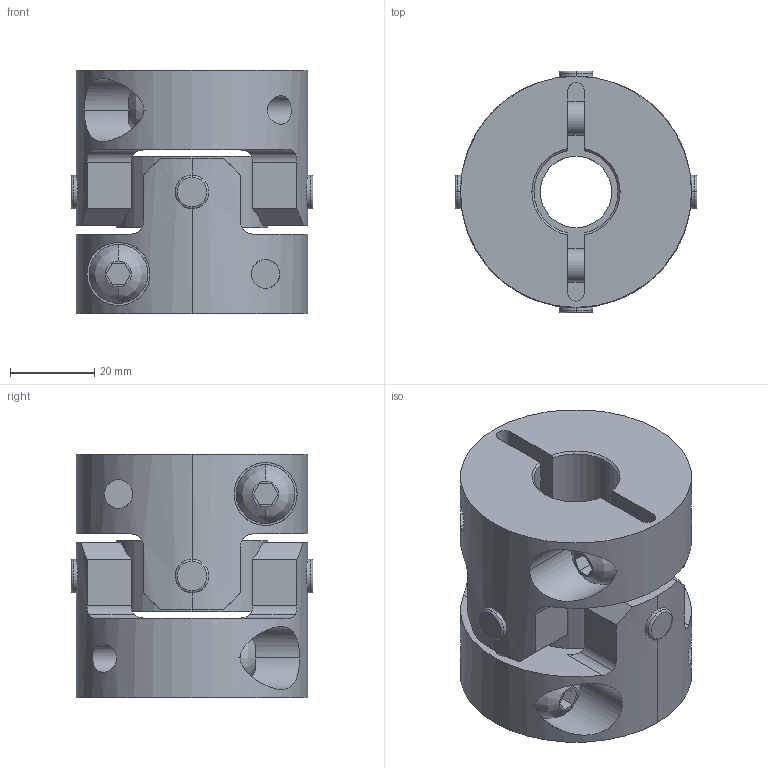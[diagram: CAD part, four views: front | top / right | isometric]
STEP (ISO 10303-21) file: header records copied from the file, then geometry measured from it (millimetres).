
FILE_DESCRIPTION((''),'2;1');
FILE_NAME('UA-55C-19×20.stp','2013-05-22T14:18:50',(''),(''),'AutoCAD STEP 2000i','AutoCAD 2000i',', , ');
FILE_SCHEMA(('CONFIG_CONTROL_DESIGN'));
Length unit declared in the file: millimetre
Products named in the file (8): UA-55C-18×18; 忣兜1; UA-5502-D18-1; BTN-M8; UA-5502-D18; UA-5502-D10-1; UA-5502-D10; UA55-SEN
Assembly tree (10 placements, depth 3):
  UA-55C-18×18
    忣兜1
    UA-5502-D18-1
      BTN-M8
    UA-5502-D18
      BTN-M8
    UA-5502-D10-1
      BTN-M8
    UA-5502-D10
      BTN-M8
    UA55-SEN
Bounding box: 57.55 x 57.55 x 58 mm (x, y, z)
Volume: 97440.8 mm3; surface area: 30540.5 mm2
Topology: 1 solids, 1 shells, 206 faces, 554 edges, 364 vertices
Faces by surface type: cylinder 96, plane 78, cone 16, bspline 8, torus 8
Entity records: 8435 total; most frequent: CARTESIAN_POINT 3079, ORIENTED_EDGE 1108, DIRECTION 1072, EDGE_CURVE 554, AXIS2_PLACEMENT_3D 413, VERTEX_POINT 364, VECTOR 246, LINE 246
